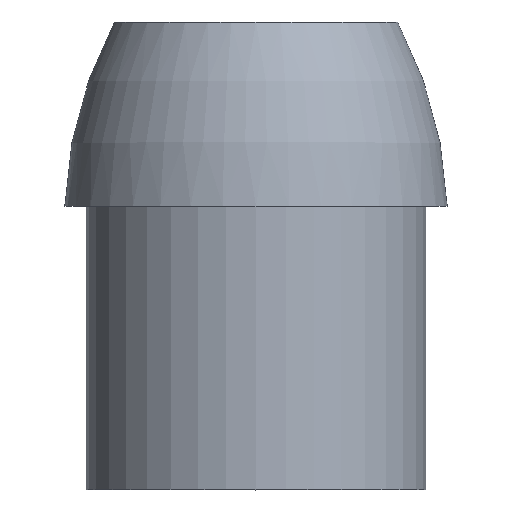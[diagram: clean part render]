
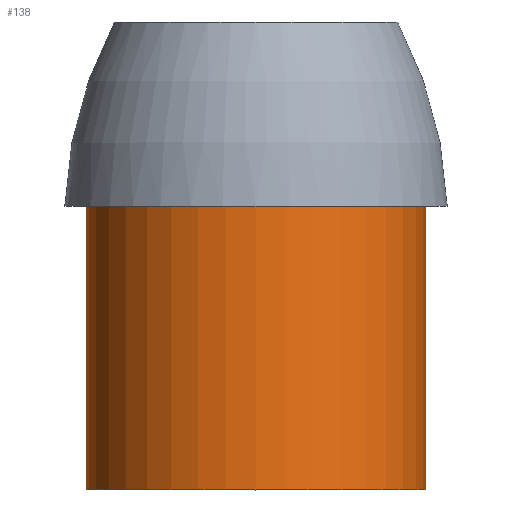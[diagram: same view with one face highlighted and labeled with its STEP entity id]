
A CAD part, top view. The second image highlights one B-rep face of the part: STEP entity #138.
In plain terms, the highlighted cylindrical face has radius 12 mm (diameter 24 mm), a partial arc.
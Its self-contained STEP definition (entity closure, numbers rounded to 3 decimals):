
#6 = DIRECTION ( 'NONE',  ( 0., -1., 0. ) ) ;
#7 = DIRECTION ( 'NONE',  ( 0., -1., 0. ) ) ;
#10 = VECTOR ( 'NONE', #257, 1000. ) ;
#11 = DIRECTION ( 'NONE',  ( 0., -1., 0. ) ) ;
#30 = VERTEX_POINT ( 'NONE', #37 ) ;
#34 = EDGE_CURVE ( 'NONE', #228, #270, #117, .T. ) ;
#37 = CARTESIAN_POINT ( 'NONE',  ( 12., 20., 0. ) ) ;
#40 = CARTESIAN_POINT ( 'NONE',  ( 12., 0., 0. ) ) ;
#45 = EDGE_CURVE ( 'NONE', #229, #270, #175, .T. ) ;
#51 = CARTESIAN_POINT ( 'NONE',  ( 0., 0., 0. ) ) ;
#53 = CYLINDRICAL_SURFACE ( 'NONE', #258, 12. ) ;
#58 = CARTESIAN_POINT ( 'NONE',  ( 12., 0., 0. ) ) ;
#67 = ORIENTED_EDGE ( 'NONE', *, *, #280, .T. ) ;
#104 = DIRECTION ( 'NONE',  ( 0., -1., 0. ) ) ;
#117 = LINE ( 'NONE', #292, #10 ) ;
#131 = ORIENTED_EDGE ( 'NONE', *, *, #34, .T. ) ;
#138 = ADVANCED_FACE ( 'NONE', ( #262 ), #53, .T. ) ;
#142 = AXIS2_PLACEMENT_3D ( 'NONE', #188, #6, #191 ) ;
#143 = DIRECTION ( 'NONE',  ( 1., 0., 0. ) ) ;
#146 = CARTESIAN_POINT ( 'NONE',  ( 0., 0., 0. ) ) ;
#156 = EDGE_CURVE ( 'NONE', #30, #229, #227, .T. ) ;
#160 = AXIS2_PLACEMENT_3D ( 'NONE', #51, #7, #143 ) ;
#175 = CIRCLE ( 'NONE', #160, 12. ) ;
#188 = CARTESIAN_POINT ( 'NONE',  ( 0., 20., 0. ) ) ;
#191 = DIRECTION ( 'NONE',  ( 1., 0., 0. ) ) ;
#198 = CARTESIAN_POINT ( 'NONE',  ( -12., 20., 0. ) ) ;
#202 = CARTESIAN_POINT ( 'NONE',  ( -12., 0., 0. ) ) ;
#206 = ORIENTED_EDGE ( 'NONE', *, *, #156, .F. ) ;
#207 = ORIENTED_EDGE ( 'NONE', *, *, #45, .F. ) ;
#227 = LINE ( 'NONE', #58, #299 ) ;
#228 = VERTEX_POINT ( 'NONE', #198 ) ;
#229 = VERTEX_POINT ( 'NONE', #40 ) ;
#232 = CIRCLE ( 'NONE', #142, 12. ) ;
#247 = EDGE_LOOP ( 'NONE', ( #67, #131, #207, #206 ) ) ;
#257 = DIRECTION ( 'NONE',  ( 0., -1., 0. ) ) ;
#258 = AXIS2_PLACEMENT_3D ( 'NONE', #146, #11, #290 ) ;
#262 = FACE_OUTER_BOUND ( 'NONE', #247, .T. ) ;
#270 = VERTEX_POINT ( 'NONE', #202 ) ;
#280 = EDGE_CURVE ( 'NONE', #30, #228, #232, .T. ) ;
#290 = DIRECTION ( 'NONE',  ( 1., 0., 0. ) ) ;
#292 = CARTESIAN_POINT ( 'NONE',  ( -12., 0., 0. ) ) ;
#299 = VECTOR ( 'NONE', #104, 1000. ) ;
